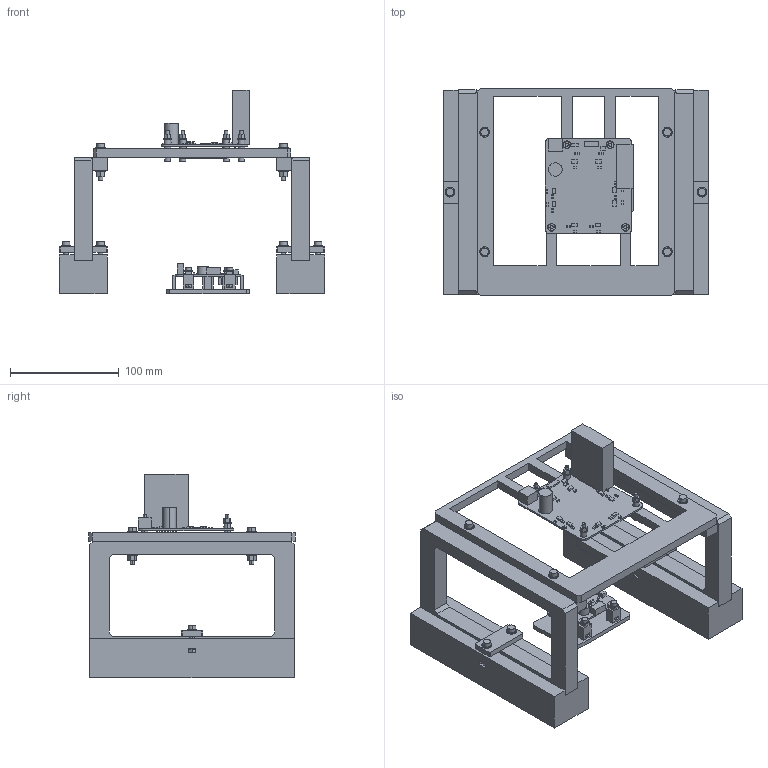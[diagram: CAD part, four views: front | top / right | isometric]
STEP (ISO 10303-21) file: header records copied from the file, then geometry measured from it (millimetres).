
FILE_DESCRIPTION (( 'STEP AP203' ), '1' );
FILE_NAME ('Addons_4x4_receiver_100mm.step', '2026-10-22T14:09:19', ( '' ), ( '' ), 'SwSTEP 2.0', 'SolidWorks 2025', '' );
FILE_SCHEMA (( 'CONFIG_CONTROL_DESIGN' ));
Length unit declared in the file: millimetre
Products named in the file (20): 01_side_trestle; REF_M4x30_screw; 09_riser_bridge; REF_M4x25_screw; 02_tx_carrier_4x4; REF_M3_washer; 06_receiver_edge_clip; 04_m3_rear_sleeve_6x5; REF_M4_plain_nut; 08_fixed_riser_30; 05_receiver_flat_tray; REF_M4_nylock; REF_receiver_electronics; REF_tx4_electronics; REF_M3x25_screw; REF_M3_plain_nut; REF_M3_nylock; REF_M3x16_screw; REF_M4_washer; Addons_4x4_receiver_100mm
Assembly tree (74 placements, depth 2):
  Addons_4x4_receiver_100mm
    01_side_trestle  x2
    02_tx_carrier_4x4
    REF_tx4_electronics
    04_m3_rear_sleeve_6x5  x4
    REF_M3x25_screw  x4
    REF_M3_washer  x12
    REF_M3_nylock  x4
    REF_M4x30_screw  x4
    REF_M4_washer  x12
    REF_M4_nylock  x4
    08_fixed_riser_30  x2
    09_riser_bridge  x2
    REF_M4x25_screw  x4
    REF_M4_plain_nut  x4
    05_receiver_flat_tray
    REF_receiver_electronics
    06_receiver_edge_clip  x4
    REF_M3x16_screw  x4
    REF_M3_plain_nut  x4
Bounding box: 244 x 190 x 186.9 mm (x, y, z)
Volume: 1020995.8 mm3; surface area: 251468.3 mm2
Topology: 192 solids, 192 shells, 1476 faces, 3168 edges, 2112 vertices
Faces by surface type: plane 1136, cylinder 340
Entity records: 30910 total; most frequent: CARTESIAN_POINT 4706, DIRECTION 4650, ORIENTED_EDGE 4332, EDGE_CURVE 2166, VECTOR 1874, LINE 1874, VERTEX_POINT 1444, AXIS2_PLACEMENT_3D 1388
